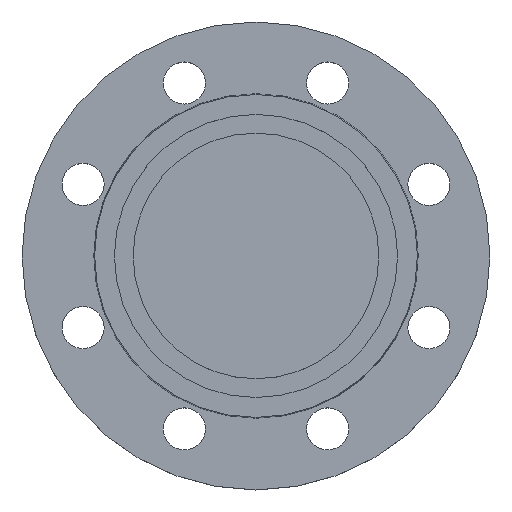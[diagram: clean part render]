
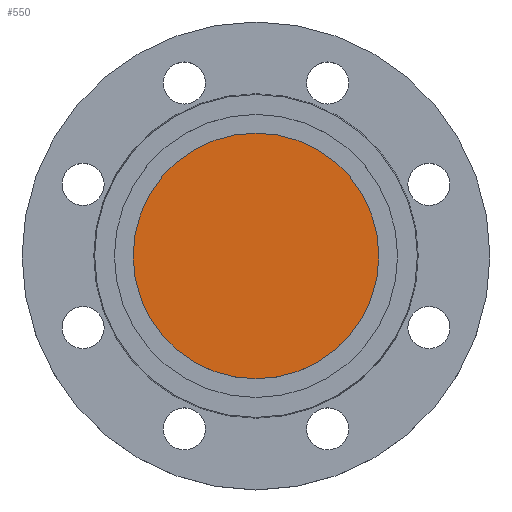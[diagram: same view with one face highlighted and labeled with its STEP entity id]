
A CAD part, top view. The second image highlights one B-rep face of the part: STEP entity #550.
In plain terms, the highlighted planar face has unit normal (0, 0, 1).
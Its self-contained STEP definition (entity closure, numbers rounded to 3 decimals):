
#92 = AXIS2_PLACEMENT_3D ( 'NONE', #290, #289, #288 ) ;
#116 = CIRCLE ( 'NONE', #761, 52.5 ) ;
#148 = DIRECTION ( 'NONE',  ( -1., 0., 0. ) ) ;
#150 = DIRECTION ( 'NONE',  ( 0., 0., -1. ) ) ;
#153 = CARTESIAN_POINT ( 'NONE',  ( 0., 0., 0. ) ) ;
#271 = CARTESIAN_POINT ( 'NONE',  ( 52.5, 0., 0. ) ) ;
#281 = CARTESIAN_POINT ( 'NONE',  ( -52.5, 0., 0. ) ) ;
#288 = DIRECTION ( 'NONE',  ( 1., 0., 0. ) ) ;
#289 = DIRECTION ( 'NONE',  ( 0., 0., 1. ) ) ;
#290 = CARTESIAN_POINT ( 'NONE',  ( 0., 0., 0. ) ) ;
#291 = PLANE ( 'NONE',  #92 ) ;
#292 = FACE_OUTER_BOUND ( 'NONE', #595, .T. ) ;
#305 = DIRECTION ( 'NONE',  ( -1., 0., 0. ) ) ;
#306 = DIRECTION ( 'NONE',  ( 0., 0., -1. ) ) ;
#307 = CARTESIAN_POINT ( 'NONE',  ( 0., 0., 0. ) ) ;
#371 = CIRCLE ( 'NONE', #738, 52.5 ) ;
#546 = EDGE_CURVE ( 'NONE', #576, #587, #116, .T. ) ;
#550 = ADVANCED_FACE ( 'NONE', ( #292 ), #291, .T. ) ;
#576 = VERTEX_POINT ( 'NONE', #281 ) ;
#587 = VERTEX_POINT ( 'NONE', #271 ) ;
#595 = EDGE_LOOP ( 'NONE', ( #934, #935 ) ) ;
#738 = AXIS2_PLACEMENT_3D ( 'NONE', #153, #150, #148 ) ;
#761 = AXIS2_PLACEMENT_3D ( 'NONE', #307, #306, #305 ) ;
#839 = EDGE_CURVE ( 'NONE', #587, #576, #371, .T. ) ;
#934 = ORIENTED_EDGE ( 'NONE', *, *, #546, .F. ) ;
#935 = ORIENTED_EDGE ( 'NONE', *, *, #839, .F. ) ;
